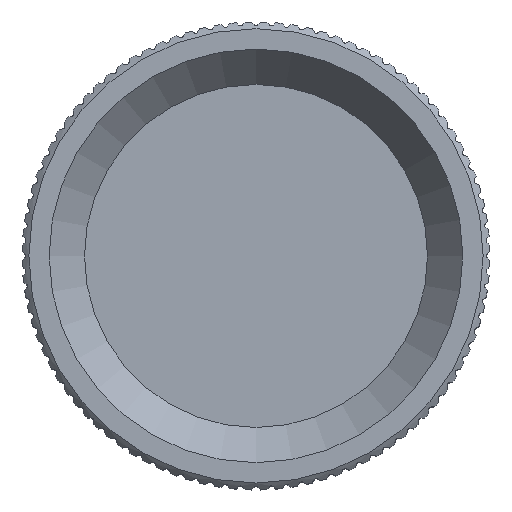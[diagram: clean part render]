
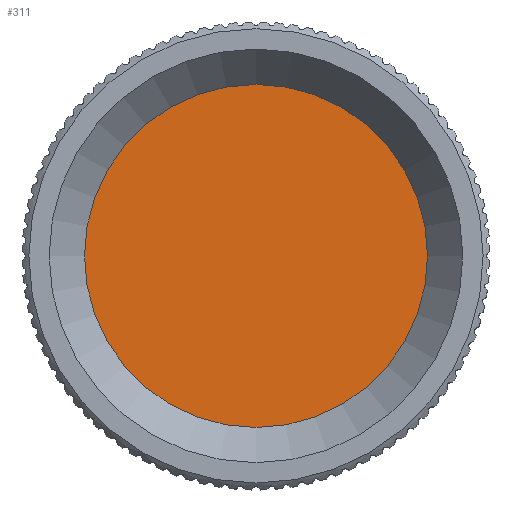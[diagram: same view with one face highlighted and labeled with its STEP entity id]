
A CAD part, top view. The second image highlights one B-rep face of the part: STEP entity #311.
In plain terms, the highlighted planar face has unit normal (0, 0, 1).
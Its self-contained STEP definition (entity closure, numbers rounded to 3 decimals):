
#277=CARTESIAN_POINT('',(12.649,0.,15.2));
#278=VERTEX_POINT('',#277);
#285=CARTESIAN_POINT('',(0.,0.,15.2));
#286=DIRECTION('',(1.,-0.,-0.));
#287=DIRECTION('',(0.,-0.,1.));
#288=AXIS2_PLACEMENT_3D('',#285,#287,#286);
#289=CIRCLE('',#288,12.649);
#290=EDGE_CURVE('',#278,#278,#289,.T.);
#303=CARTESIAN_POINT('',(0.,0.,15.2));
#304=DIRECTION('',(1.,0.,0.));
#305=DIRECTION('',(0.,0.,-1.));
#306=AXIS2_PLACEMENT_3D('',#303,#305,#304);
#307=PLANE('',#306);
#308=ORIENTED_EDGE('',*,*,#290,.F.);
#309=EDGE_LOOP('',(#308));
#310=FACE_OUTER_BOUND('',#309,.F.);
#311=ADVANCED_FACE('F7',(#310),#307,.F.);
